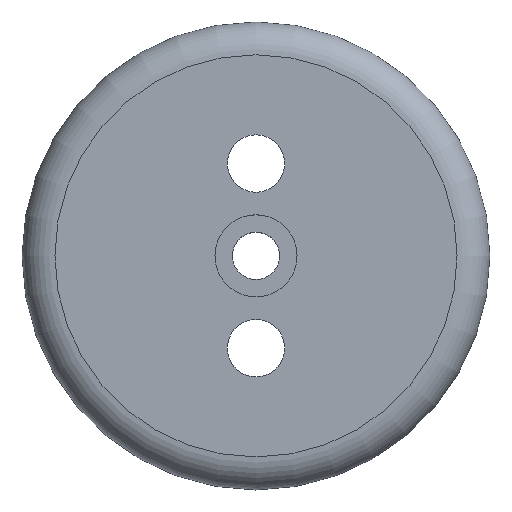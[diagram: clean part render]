
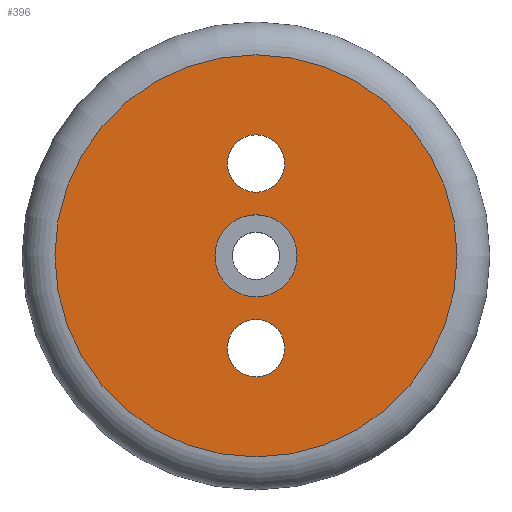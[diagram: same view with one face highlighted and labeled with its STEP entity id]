
A CAD part, top view. The second image highlights one B-rep face of the part: STEP entity #396.
In plain terms, the highlighted planar face has unit normal (0, 0, 1).
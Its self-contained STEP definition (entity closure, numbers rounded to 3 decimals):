
#74 = CYLINDRICAL_SURFACE('',#75,7.);
#75 = AXIS2_PLACEMENT_3D('',#76,#77,#78);
#76 = CARTESIAN_POINT('',(0.,-22.5,-4.));
#77 = DIRECTION('',(0.,0.,1.));
#78 = DIRECTION('',(1.,0.,-0.));
#136 = CYLINDRICAL_SURFACE('',#137,7.);
#137 = AXIS2_PLACEMENT_3D('',#138,#139,#140);
#138 = CARTESIAN_POINT('',(0.,22.5,-4.));
#139 = DIRECTION('',(0.,0.,1.));
#140 = DIRECTION('',(1.,0.,-0.));
#206 = EDGE_CURVE('',#207,#207,#209,.T.);
#207 = VERTEX_POINT('',#208);
#208 = CARTESIAN_POINT('',(7.,-22.5,0.));
#209 = SURFACE_CURVE('',#210,(#215,#222),.PCURVE_S1.);
#210 = CIRCLE('',#211,7.);
#211 = AXIS2_PLACEMENT_3D('',#212,#213,#214);
#212 = CARTESIAN_POINT('',(0.,-22.5,0.));
#213 = DIRECTION('',(0.,0.,1.));
#214 = DIRECTION('',(1.,0.,-0.));
#215 = PCURVE('',#74,#216);
#216 = DEFINITIONAL_REPRESENTATION('',(#217),#221);
#217 = LINE('',#218,#219);
#218 = CARTESIAN_POINT('',(0.,4.));
#219 = VECTOR('',#220,1.);
#220 = DIRECTION('',(1.,0.));
#221 = ( GEOMETRIC_REPRESENTATION_CONTEXT(2) 
PARAMETRIC_REPRESENTATION_CONTEXT() REPRESENTATION_CONTEXT('2D SPACE',''
  ) );
#222 = PCURVE('',#223,#228);
#223 = PLANE('',#224);
#224 = AXIS2_PLACEMENT_3D('',#225,#226,#227);
#225 = CARTESIAN_POINT('',(0.,0.,0.));
#226 = DIRECTION('',(0.,0.,1.));
#227 = DIRECTION('',(1.,0.,-0.));
#228 = DEFINITIONAL_REPRESENTATION('',(#229),#233);
#229 = CIRCLE('',#230,7.);
#230 = AXIS2_PLACEMENT_2D('',#231,#232);
#231 = CARTESIAN_POINT('',(0.,-22.5));
#232 = DIRECTION('',(1.,0.));
#233 = ( GEOMETRIC_REPRESENTATION_CONTEXT(2) 
PARAMETRIC_REPRESENTATION_CONTEXT() REPRESENTATION_CONTEXT('2D SPACE',''
  ) );
#315 = EDGE_CURVE('',#316,#316,#318,.T.);
#316 = VERTEX_POINT('',#317);
#317 = CARTESIAN_POINT('',(7.,22.5,0.));
#318 = SURFACE_CURVE('',#319,(#324,#331),.PCURVE_S1.);
#319 = CIRCLE('',#320,7.);
#320 = AXIS2_PLACEMENT_3D('',#321,#322,#323);
#321 = CARTESIAN_POINT('',(0.,22.5,0.));
#322 = DIRECTION('',(0.,0.,1.));
#323 = DIRECTION('',(1.,0.,-0.));
#324 = PCURVE('',#136,#325);
#325 = DEFINITIONAL_REPRESENTATION('',(#326),#330);
#326 = LINE('',#327,#328);
#327 = CARTESIAN_POINT('',(0.,4.));
#328 = VECTOR('',#329,1.);
#329 = DIRECTION('',(1.,0.));
#330 = ( GEOMETRIC_REPRESENTATION_CONTEXT(2) 
PARAMETRIC_REPRESENTATION_CONTEXT() REPRESENTATION_CONTEXT('2D SPACE',''
  ) );
#331 = PCURVE('',#223,#332);
#332 = DEFINITIONAL_REPRESENTATION('',(#333),#337);
#333 = CIRCLE('',#334,7.);
#334 = AXIS2_PLACEMENT_2D('',#335,#336);
#335 = CARTESIAN_POINT('',(0.,22.5));
#336 = DIRECTION('',(1.,0.));
#337 = ( GEOMETRIC_REPRESENTATION_CONTEXT(2) 
PARAMETRIC_REPRESENTATION_CONTEXT() REPRESENTATION_CONTEXT('2D SPACE',''
  ) );
#396 = ADVANCED_FACE('',(#397,#428,#431,#462),#223,.T.);
#397 = FACE_BOUND('',#398,.T.);
#398 = EDGE_LOOP('',(#399));
#399 = ORIENTED_EDGE('',*,*,#400,.T.);
#400 = EDGE_CURVE('',#401,#401,#403,.T.);
#401 = VERTEX_POINT('',#402);
#402 = CARTESIAN_POINT('',(49.,0.,0.));
#403 = SURFACE_CURVE('',#404,(#409,#416),.PCURVE_S1.);
#404 = CIRCLE('',#405,49.);
#405 = AXIS2_PLACEMENT_3D('',#406,#407,#408);
#406 = CARTESIAN_POINT('',(0.,0.,0.));
#407 = DIRECTION('',(0.,0.,1.));
#408 = DIRECTION('',(1.,0.,-0.));
#409 = PCURVE('',#223,#410);
#410 = DEFINITIONAL_REPRESENTATION('',(#411),#415);
#411 = CIRCLE('',#412,49.);
#412 = AXIS2_PLACEMENT_2D('',#413,#414);
#413 = CARTESIAN_POINT('',(0.,0.));
#414 = DIRECTION('',(1.,0.));
#415 = ( GEOMETRIC_REPRESENTATION_CONTEXT(2) 
PARAMETRIC_REPRESENTATION_CONTEXT() REPRESENTATION_CONTEXT('2D SPACE',''
  ) );
#416 = PCURVE('',#417,#422);
#417 = TOROIDAL_SURFACE('',#418,49.,8.);
#418 = AXIS2_PLACEMENT_3D('',#419,#420,#421);
#419 = CARTESIAN_POINT('',(0.,0.,-8.));
#420 = DIRECTION('',(0.,0.,1.));
#421 = DIRECTION('',(1.,0.,-0.));
#422 = DEFINITIONAL_REPRESENTATION('',(#423),#427);
#423 = LINE('',#424,#425);
#424 = CARTESIAN_POINT('',(0.,1.571));
#425 = VECTOR('',#426,1.);
#426 = DIRECTION('',(1.,0.));
#427 = ( GEOMETRIC_REPRESENTATION_CONTEXT(2) 
PARAMETRIC_REPRESENTATION_CONTEXT() REPRESENTATION_CONTEXT('2D SPACE',''
  ) );
#428 = FACE_BOUND('',#429,.T.);
#429 = EDGE_LOOP('',(#430));
#430 = ORIENTED_EDGE('',*,*,#206,.F.);
#431 = FACE_BOUND('',#432,.T.);
#432 = EDGE_LOOP('',(#433));
#433 = ORIENTED_EDGE('',*,*,#434,.F.);
#434 = EDGE_CURVE('',#435,#435,#437,.T.);
#435 = VERTEX_POINT('',#436);
#436 = CARTESIAN_POINT('',(10.,0.,0.));
#437 = SURFACE_CURVE('',#438,(#443,#450),.PCURVE_S1.);
#438 = CIRCLE('',#439,10.);
#439 = AXIS2_PLACEMENT_3D('',#440,#441,#442);
#440 = CARTESIAN_POINT('',(0.,0.,0.));
#441 = DIRECTION('',(0.,0.,1.));
#442 = DIRECTION('',(1.,0.,-0.));
#443 = PCURVE('',#223,#444);
#444 = DEFINITIONAL_REPRESENTATION('',(#445),#449);
#445 = CIRCLE('',#446,10.);
#446 = AXIS2_PLACEMENT_2D('',#447,#448);
#447 = CARTESIAN_POINT('',(0.,0.));
#448 = DIRECTION('',(1.,0.));
#449 = ( GEOMETRIC_REPRESENTATION_CONTEXT(2) 
PARAMETRIC_REPRESENTATION_CONTEXT() REPRESENTATION_CONTEXT('2D SPACE',''
  ) );
#450 = PCURVE('',#451,#456);
#451 = CYLINDRICAL_SURFACE('',#452,10.);
#452 = AXIS2_PLACEMENT_3D('',#453,#454,#455);
#453 = CARTESIAN_POINT('',(0.,0.,-0.5));
#454 = DIRECTION('',(0.,0.,1.));
#455 = DIRECTION('',(1.,0.,-0.));
#456 = DEFINITIONAL_REPRESENTATION('',(#457),#461);
#457 = LINE('',#458,#459);
#458 = CARTESIAN_POINT('',(0.,0.5));
#459 = VECTOR('',#460,1.);
#460 = DIRECTION('',(1.,0.));
#461 = ( GEOMETRIC_REPRESENTATION_CONTEXT(2) 
PARAMETRIC_REPRESENTATION_CONTEXT() REPRESENTATION_CONTEXT('2D SPACE',''
  ) );
#462 = FACE_BOUND('',#463,.T.);
#463 = EDGE_LOOP('',(#464));
#464 = ORIENTED_EDGE('',*,*,#315,.F.);
